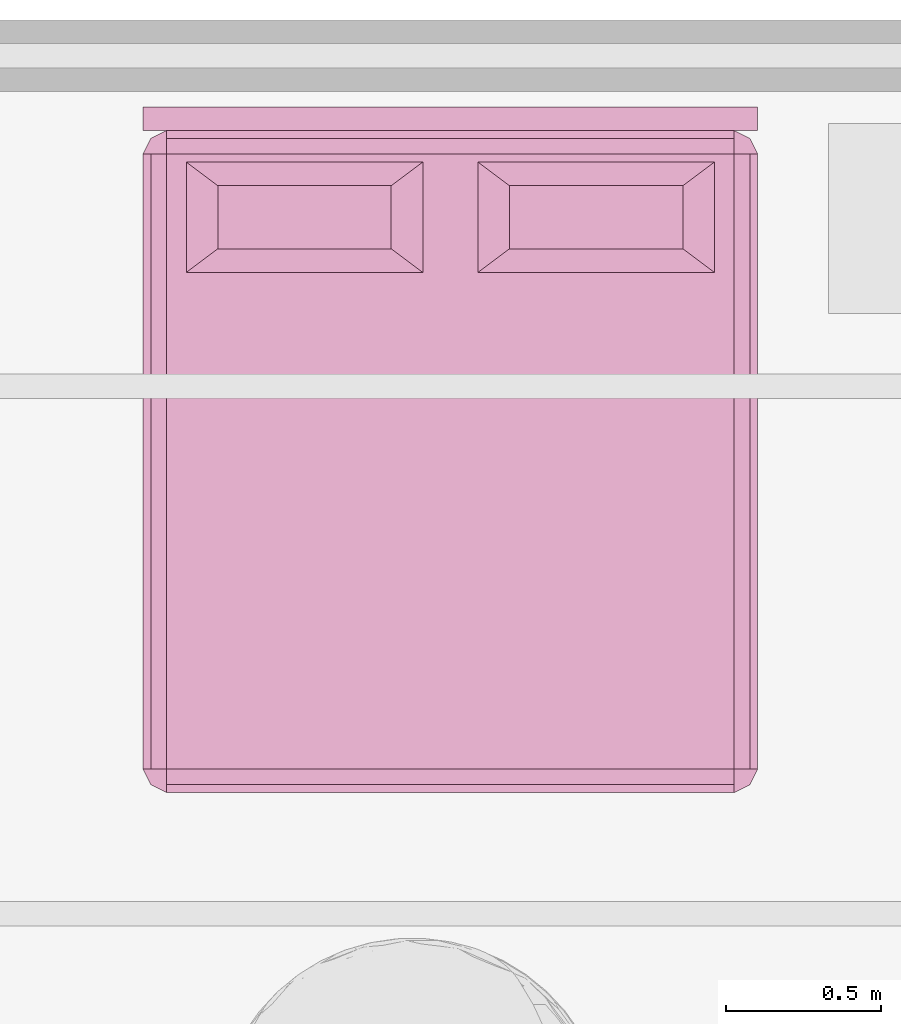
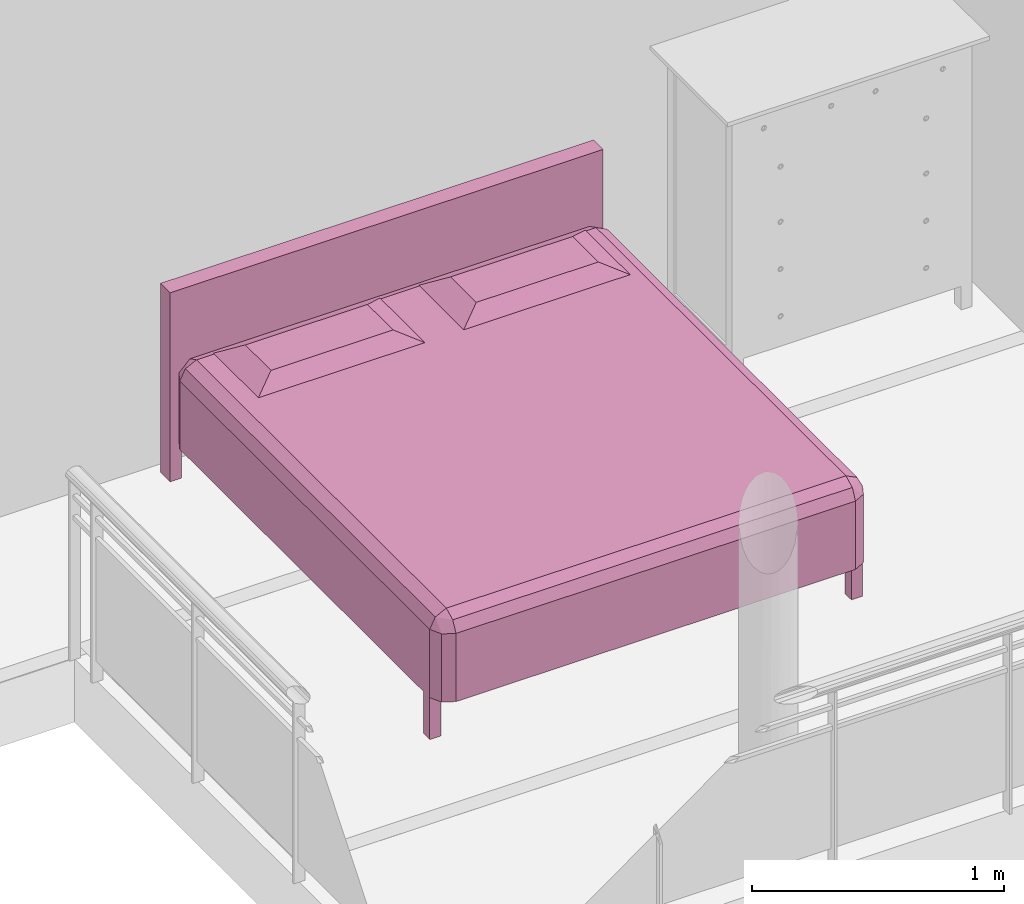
# One storey, part 5 of 5: 1 furnishing.
"""IFC2X3 building model written with IfcOpenShell, lengths in metres."""

from ifc_helpers import new_model, entity, si_unit, converted_unit, derived_unit, direction, frame, origin, place, context, subcontext, project, spatial, face_set, surface_model, source, transform, mapped, material, type_object, type_shapes, element, save


model = new_model("IFC2X3")

# Units and contexts
model_context = context("Model", 3, precision=1e-05, world=origin(), true_north=direction((6.123233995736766e-17, 1.0)))
body_context = subcontext(model_context, "Body", "Model", "MODEL_VIEW")
ifc_project = project(units=[si_unit("LENGTHUNIT", "METRE"), si_unit("AREAUNIT", "SQUARE_METRE"), converted_unit("PLANEANGLEUNIT", "DEGREE", entity("IfcPlaneAngleMeasure", 0.017453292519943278), si_unit("PLANEANGLEUNIT", "RADIAN"), dimensions=[0, 0, 0, 0, 0, 0, 0]), derived_unit("THERMALTRANSMITTANCEUNIT", [(si_unit("MASSUNIT", "GRAM", prefix="KILO"), 1), (si_unit("THERMODYNAMICTEMPERATUREUNIT", "KELVIN"), -1), (si_unit("TIMEUNIT", "SECOND"), -3)])], contexts=[model_context])

# Site, building, storey, space
site_placement = place(None, origin())
site = spatial("IfcSite", under=ifc_project, at=site_placement, Name="Default", CompositionType="ELEMENT")
building_placement = place(site_placement, origin())
building = spatial("IfcBuilding", under=site, at=building_placement, CompositionType="ELEMENT")
storey_placement = place(building_placement, frame((0.0, 0.0, 3.0999999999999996)))
storey = spatial("IfcBuildingStorey", under=building, at=storey_placement, Name="1 - First Floor", CompositionType="ELEMENT", Elevation=3.0999999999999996)
space_placement = place(storey_placement, origin())
space = spatial("IfcSpace", under=storey, at=space_placement, Name="10", CompositionType="ELEMENT", InteriorOrExteriorSpace="INTERNAL")

# Furnishing
ifc_material = material(Name="<Unnamed>")
furniture_type = type_object("IfcFurnitureType", Name="Bed05:Bed05", AssemblyPlace="NOTDEFINED", material=ifc_material)
shared_shape = source(origin(), body_context, "Body", "SurfaceModel", [
    surface_model("IfcFaceBasedSurfaceModel", [(0.2539999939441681, 0.8254999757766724, 0.6096), (0.2539999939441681, 0.21589977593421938, 0.609600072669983), (0.1777999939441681, 0.13970001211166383, 0.6350001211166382), (0.1777999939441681, 0.9016999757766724, 0.6349999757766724), (0.45720000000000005, 0.8254999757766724, 0.6096), (0.5334, 0.9016999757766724, 0.6349999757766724), (0.5334, 0.13970001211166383, 0.6350001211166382), (0.45720000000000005, 0.21589977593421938, 0.609600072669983), (0.45720000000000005, 0.8000997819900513, 0.6858000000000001), (0.2539999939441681, 0.8000997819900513, 0.6858000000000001), (0.45720000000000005, 0.2412997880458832, 0.685800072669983), (0.2539999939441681, 0.2412997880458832, 0.685800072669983), (0.5334, 1.905, 0.6095998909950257), (0.1524, 1.905, 0.6095998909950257), (0.5334, 0.07620000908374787, 0.609600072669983), (0.1524, 0.07620000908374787, 0.609600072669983), (0.5334, 0.02540001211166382, 0.5842000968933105), (0.1524, 0.02540001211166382, 0.5842000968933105), (0.5334, 7.77188465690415e-09, 0.5334001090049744), (0.1524, 7.77188465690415e-09, 0.5334001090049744), (0.5334, -2.1095115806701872e-08, 0.20320009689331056), (0.1524, -2.1095115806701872e-08, 0.20320009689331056), (0.5334, 1.9557999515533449, 0.5841999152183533), (0.1524, 1.9557999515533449, 0.5841999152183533), (0.5334, 1.9812, 0.5333998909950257), (0.1524, 1.9812, 0.5333998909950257), (0.5334, 1.9812, 0.2031999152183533), (0.1524, 1.9812, 0.2031999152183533), (0.7111999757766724, 1.9812, 0.2031999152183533), (0.7111999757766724, 1.9812, 0.5333998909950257), (0.7111999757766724, 1.9557999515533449, 0.5841999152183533), (0.7111999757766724, 1.905, 0.6095998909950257), (0.9144000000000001, 0.02540001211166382, 0.5842000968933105), (0.9144000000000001, 7.77188465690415e-09, 0.5334001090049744), (0.9144000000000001, -2.1095115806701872e-08, 0.20320009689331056), (0.9144000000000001, 0.07620000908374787, 0.609600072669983), (2.1336, 1.9557999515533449, 0.5841999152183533), (2.1336, 1.905, 0.6095998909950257), (2.1590000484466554, 1.9304000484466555, 0.5841999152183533), (2.1336, 1.9812, 0.5333998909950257), (2.184399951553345, 1.9557999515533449, 0.5333998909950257), (2.1336, 1.9812, 0.2031999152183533), (2.184399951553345, 1.9557999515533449, 0.2031999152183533), (2.184399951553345, 1.905, 0.5841999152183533), (2.2098, 1.905, 0.5333998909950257), (2.2098, 1.905, 0.20319978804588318), (2.184399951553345, 0.07620000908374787, 0.5842000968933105), (2.1336, 0.07620000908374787, 0.609600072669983), (2.1590000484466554, 0.05080001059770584, 0.5842000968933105), (2.2098, 0.07620000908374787, 0.5334001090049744), (2.184399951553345, 0.025400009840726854, 0.5334001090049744), (2.2098, 0.07619998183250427, 0.20319998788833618), (2.184399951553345, 0.02539997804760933, 0.20319998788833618), (2.1336, 0.02540001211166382, 0.5842000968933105), (2.1336, 7.77188465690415e-09, 0.5334001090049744), (2.1336, -2.1095115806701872e-08, 0.20320009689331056), (0.10160000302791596, 1.905, 0.5841999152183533), (0.12699999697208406, 1.9304000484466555, 0.5841999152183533), (0.0762, 1.905, 0.5333998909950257), (0.10160000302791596, 1.9557999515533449, 0.5333998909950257), (0.0762, 1.905, 0.20319978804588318), (0.10160000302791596, 1.9557999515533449, 0.2031999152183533), (0.12699999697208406, 0.05080001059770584, 0.5842000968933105), (0.10160000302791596, 0.025400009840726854, 0.5334001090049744), (0.10160000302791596, 0.02539997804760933, 0.20319998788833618), (0.10160000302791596, 0.07620000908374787, 0.5842000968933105), (0.0762, 0.07620000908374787, 0.5334001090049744), (0.0762, 0.07619998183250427, 0.20319998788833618), (0.2539999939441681, 1.1811, 0.6858000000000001), (0.2539999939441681, 1.7399000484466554, 0.6857999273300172), (0.1777999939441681, 1.0795000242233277, 0.6349999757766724), (0.1777999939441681, 1.8414999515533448, 0.6349999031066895), (0.45720000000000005, 1.1811, 0.6858000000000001), (0.45720000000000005, 1.7399000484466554, 0.6857999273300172), (0.5334, 1.8414999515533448, 0.6349999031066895), (0.5334, 1.0795000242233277, 0.6349999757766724), (0.45720000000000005, 1.7652999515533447, 0.6095999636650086), (0.2539999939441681, 1.7652999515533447, 0.6095999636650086), (0.45720000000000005, 1.1557000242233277, 0.6096), (0.2539999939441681, 1.1557000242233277, 0.6096), (0.0, 1.9812, 0.9143999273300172), (0.0, 0.0, 0.9144000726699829), (0.0762, 1.9812, 0.9143999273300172), (0.0762, 0.0, 0.9144000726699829), (0.0, 3.996969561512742e-08, 0.9144000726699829), (0.0, -2.220538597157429e-08, 0.20320009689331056), (0.0, 1.9812, 0.9143999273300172), (0.0, 1.9812, 0.2031999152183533), (2.0828000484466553, 1.9304000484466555, 0.20319978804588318), (2.0828000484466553, 1.9304000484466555, -8.215992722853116e-08), (2.0828000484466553, 1.9812, 0.2031999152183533), (2.0828000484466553, 1.9812, -8.66009992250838e-08), (2.1336, 1.9812, -8.66009992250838e-08), (2.1336, 1.9812, 0.2031999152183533), (2.1336, 1.9304000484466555, 0.20319978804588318), (2.1336, 1.9304000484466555, -8.215992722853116e-08), (0.0762, 1.9812, -8.66009992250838e-08), (0.0762, 1.9812, 0.2031999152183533), (0.0762, 1.9304000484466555, 0.20319978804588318), (0.0762, 1.9304000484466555, -8.215992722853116e-08), (0.0, 1.9304000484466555, 0.20319978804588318), (0.0, 1.9304000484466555, -8.215992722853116e-08), (0.0, 1.9812, -8.66009992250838e-08), (0.0, -3.996969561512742e-08, 8.66009992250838e-08), (0.0, 0.05079997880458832, 0.20319998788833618), (0.0, 0.05079996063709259, 8.215992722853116e-08), (2.1336, 0.05079996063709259, 8.215992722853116e-08), (2.1336, 0.05079997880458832, 0.20319998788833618), (2.1336, -2.220538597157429e-08, 0.20320009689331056), (2.1336, -3.996969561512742e-08, 8.66009992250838e-08), (2.0828000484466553, -2.220538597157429e-08, 0.20320009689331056), (2.0828000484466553, -3.996969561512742e-08, 8.66009992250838e-08), (2.0828000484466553, 0.05079997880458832, 0.20319998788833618), (2.0828000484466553, 0.05079996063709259, 8.215992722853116e-08), (0.0762, 0.05079996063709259, 8.215992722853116e-08), (0.0762, 0.05079997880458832, 0.20319998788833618), (0.0762, -2.220538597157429e-08, 0.20320009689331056), (0.0762, -3.996969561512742e-08, 8.66009992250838e-08), (0.0762, 1.9812, 0.9143999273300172), (0.0762, 3.996969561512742e-08, 0.9144000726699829), (0.0762, 3.996969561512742e-08, 0.9144000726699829), (0.0762, -2.220538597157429e-08, 0.20320009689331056), (0.0, -2.220538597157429e-08, 0.20320009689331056), (0.0, 3.996969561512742e-08, 0.9144000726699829), (2.1336, 1.9304000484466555, 0.20319978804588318), (2.1336, 1.9304000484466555, -8.215992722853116e-08), (2.0828000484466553, 1.9304000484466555, -8.215992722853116e-08), (2.0828000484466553, 1.9304000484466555, 0.20319978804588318), (2.0828000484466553, 1.9812, -8.66009992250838e-08), (2.0828000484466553, 1.9812, 0.2031999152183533), (2.1336, 1.9812, -8.66009992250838e-08), (2.1336, 1.9812, 0.2031999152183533), (0.0, 1.9812, -8.66009992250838e-08), (0.0, 1.9812, 0.2031999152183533), (0.0762, 1.9812, -8.66009992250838e-08), (0.0762, 1.9812, 0.2031999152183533), (0.0762, 1.9304000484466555, 0.20319978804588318), (0.0762, 1.9304000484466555, -8.215992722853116e-08), (0.0, 1.9304000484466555, -8.215992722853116e-08), (0.0, 1.9304000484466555, 0.20319978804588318), (0.0762, -3.996969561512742e-08, 8.66009992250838e-08), (0.0, -3.996969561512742e-08, 8.66009992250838e-08), (0.0, 0.05079996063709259, 8.215992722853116e-08), (0.0, 0.05079997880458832, 0.20319998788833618), (0.0762, 0.05079996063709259, 8.215992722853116e-08), (0.0762, 0.05079997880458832, 0.20319998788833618), (2.0828000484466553, 0.05079996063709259, 8.215992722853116e-08), (2.0828000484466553, 0.05079997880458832, 0.20319998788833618), (2.1336, 0.05079996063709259, 8.215992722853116e-08), (2.1336, 0.05079997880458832, 0.20319998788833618), (2.1336, -2.220538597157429e-08, 0.20320009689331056), (2.1336, -3.996969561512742e-08, 8.66009992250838e-08), (2.0828000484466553, -3.996969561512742e-08, 8.66009992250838e-08), (2.0828000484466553, -2.220538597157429e-08, 0.20320009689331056), (0.0, 1.9812, 0.9143999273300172), (0.0762, 1.9812, 0.9143999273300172)], [face_set([[[0, 1, 2]], [[2, 3, 0]], [[4, 5, 6]], [[6, 7, 4]], [[6, 2, 7]], [[1, 7, 2]], [[3, 5, 4]], [[4, 0, 3]], [[5, 3, 8]], [[9, 8, 3]], [[2, 6, 10]], [[10, 11, 2]], [[5, 8, 6]], [[10, 6, 8]], [[11, 10, 9]], [[8, 9, 10]], [[11, 9, 2]], [[3, 2, 9]], [[12, 13, 14]], [[15, 14, 13]], [[14, 15, 16]], [[17, 16, 15]], [[18, 19, 20]], [[21, 20, 19]], [[16, 17, 18]], [[19, 18, 17]], [[22, 23, 12]], [[13, 12, 23]], [[24, 25, 22]], [[23, 22, 25]], [[26, 27, 24]], [[25, 24, 27]], [[28, 26, 29]], [[24, 29, 26]], [[29, 24, 30]], [[22, 30, 24]], [[30, 22, 31]], [[12, 31, 22]], [[32, 16, 33]], [[18, 33, 16]], [[33, 18, 34]], [[20, 34, 18]], [[35, 14, 32]], [[16, 32, 14]], [[31, 12, 35]], [[14, 35, 12]], [[36, 37, 38]], [[39, 40, 41]], [[42, 41, 40]], [[39, 36, 40]], [[40, 36, 38]], [[43, 44, 40]], [[43, 40, 38]], [[40, 44, 45]], [[45, 42, 40]], [[37, 43, 38]], [[46, 47, 48]], [[49, 50, 51]], [[52, 51, 50]], [[49, 46, 50]], [[50, 46, 48]], [[53, 54, 50]], [[53, 50, 48]], [[50, 54, 55]], [[55, 52, 50]], [[47, 53, 48]], [[56, 13, 57]], [[58, 59, 60]], [[61, 60, 59]], [[58, 56, 59]], [[59, 56, 57]], [[23, 25, 59]], [[23, 59, 57]], [[59, 25, 27]], [[27, 61, 59]], [[13, 23, 57]], [[17, 15, 62]], [[19, 63, 21]], [[64, 21, 63]], [[19, 17, 63]], [[63, 17, 62]], [[65, 66, 63]], [[65, 63, 62]], [[63, 66, 67]], [[67, 64, 63]], [[15, 65, 62]], [[15, 13, 56]], [[56, 65, 15]], [[66, 58, 60]], [[60, 67, 66]], [[65, 56, 58]], [[58, 66, 65]], [[43, 46, 44]], [[49, 44, 46]], [[44, 49, 45]], [[51, 45, 49]], [[37, 47, 43]], [[46, 43, 47]], [[37, 31, 47]], [[35, 47, 31]], [[47, 35, 53]], [[32, 53, 35]], [[54, 33, 55]], [[34, 55, 33]], [[53, 32, 54]], [[33, 54, 32]], [[36, 30, 37]], [[31, 37, 30]], [[39, 29, 36]], [[30, 36, 29]], [[41, 28, 39]], [[29, 39, 28]], [[68, 69, 70]], [[71, 70, 69]], [[68, 72, 69]], [[73, 69, 72]], [[74, 73, 75]], [[72, 75, 73]], [[70, 75, 72]], [[72, 68, 70]], [[74, 71, 73]], [[69, 73, 71]], [[71, 74, 76]], [[76, 77, 71]], [[75, 70, 78]], [[79, 78, 70]], [[76, 74, 75]], [[75, 78, 76]], [[77, 79, 70]], [[70, 71, 77]]]), face_set([[[80, 81, 82]], [[83, 82, 81]]]), face_set([[[84, 85, 86]], [[87, 86, 85]], [[88, 89, 90]], [[91, 90, 89]], [[92, 93, 94]], [[94, 95, 92]], [[96, 97, 98]], [[98, 99, 96]], [[100, 101, 87]], [[102, 87, 101]], [[85, 103, 104]], [[105, 104, 103]], [[106, 107, 108]], [[108, 109, 106]], [[110, 111, 112]], [[113, 112, 111]], [[114, 115, 116]], [[116, 117, 114]], [[97, 118, 119]], [[119, 116, 97]]]), face_set([[[120, 121, 122]], [[122, 123, 120]], [[124, 125, 126]], [[126, 127, 124]], [[128, 129, 130]], [[131, 130, 129]], [[132, 133, 134]], [[135, 134, 133]], [[136, 137, 138]], [[138, 139, 136]], [[121, 140, 141]], [[141, 122, 121]], [[142, 143, 144]], [[145, 144, 143]], [[146, 147, 148]], [[149, 148, 147]], [[150, 151, 152]], [[152, 153, 150]], [[133, 154, 135]], [[155, 135, 154]]])]),
])
type_shapes(furniture_type, [shared_shape])
furnishing_placement = place(space_placement, frame((-0.09204106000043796, 3.5020517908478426, 0.0), z_axis=(0.0, 0.0, 1.0), x_axis=(0.0, -1.0, 0.0)))
element("IfcFurnishingElement", 1, at=furnishing_placement, inside=space, type_object=furniture_type, material=ifc_material, Name="Bed05:Bed05", ObjectType="Bed05:Bed05", context=body_context, shape_type="MappedRepresentation", body=[
    mapped(shared_shape, transform((0.0, 0.0, 0.0), scale=1.0)),
])

save(model, "model.ifc")
